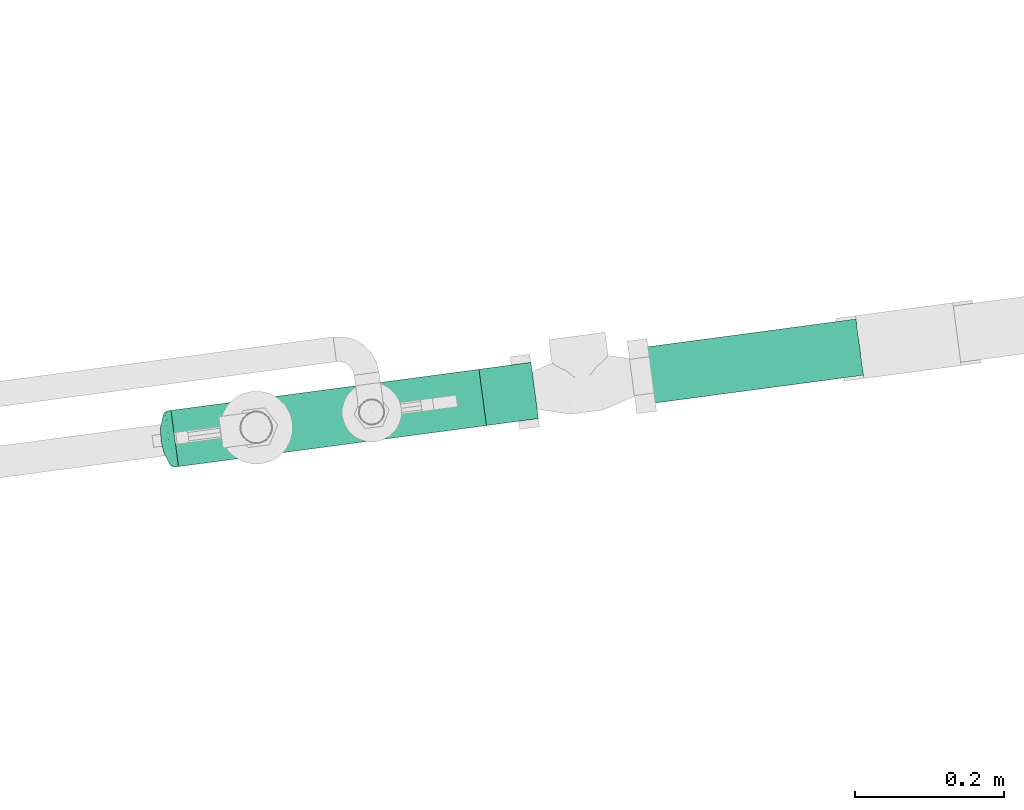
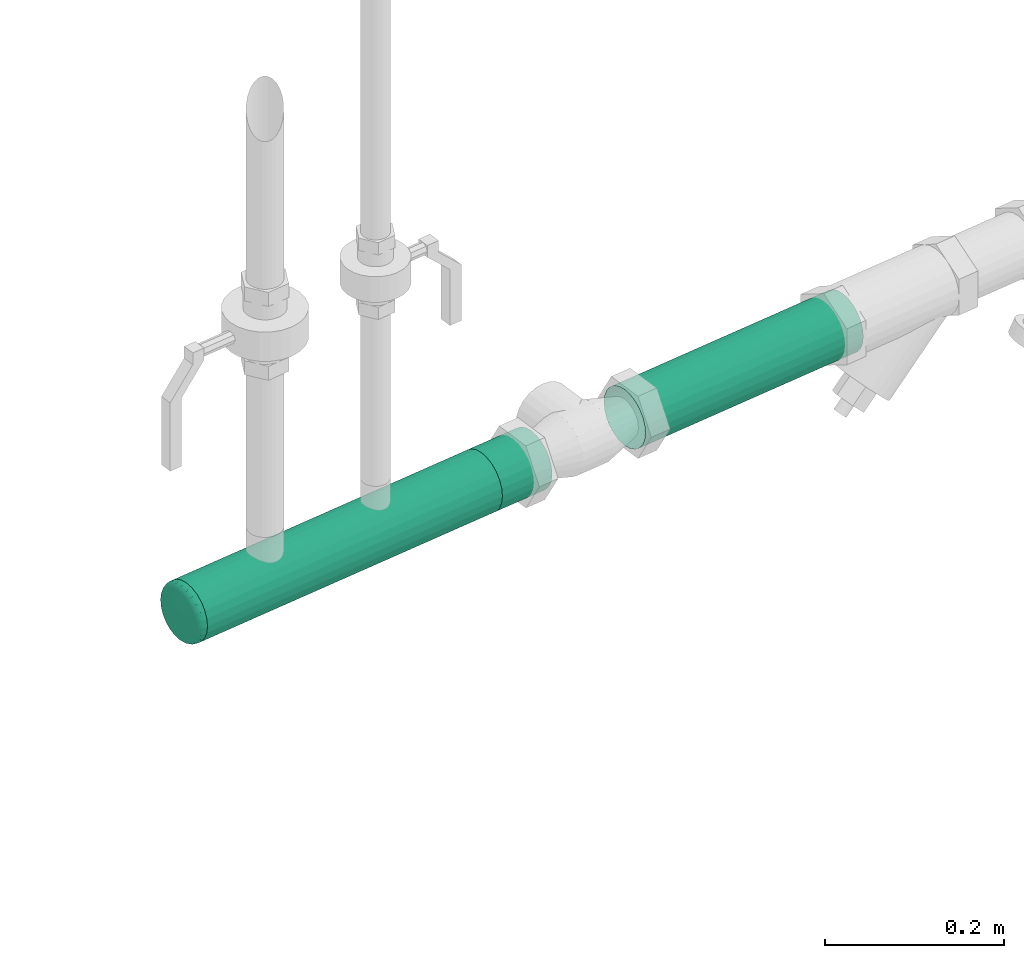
# One storey, part 327 of 374: 3 flow segments, 1 flow fitting.
"""IFC2X3 building model written with IfcOpenShell, lengths in metres."""

import ifcopenshell
import ifcopenshell.guid

model = None  # the IFC model being written
_history = None  # IfcOwnerHistory: only IFC2X3 demands one
_inside = {}  # id of a spatial element -> (the spatial element, [elements in it])
_under = {}  # id of a project, library or spatial element -> (it, [spatial elements below it])
_declared = {}  # id of a project -> (the project, [libraries it declares])
_typed = {}  # id of a type object -> (the type object, [elements of that type])
_made_of = {}  # id of a material, layer set ... -> (it, [elements and type objects made of it])


def new_model(schema):
    """Start an empty IFC model of exactly this schema.

    Asked for "IFC4X3", IfcOpenShell would pick the latest addendum, in which some entities
    have other attributes; the version numbers below select the first issue.
    IFC2X3 requires an IfcOwnerHistory on every rooted entity: one is made here for all.
    """
    global model, _history
    if schema == "IFC4X3":
        model = ifcopenshell.file(schema_version=(4, 3, 0, 0))
    else:
        model = ifcopenshell.file(schema=schema)
    _inside.clear()
    _under.clear()
    _declared.clear()
    _typed.clear()
    _made_of.clear()
    _history = None
    if model.schema == "IFC2X3":
        org = make("IfcOrganization", Name="unknown")
        user = make(
            "IfcPersonAndOrganization",
            ThePerson=make("IfcPerson", FamilyName="unknown"),
            TheOrganization=org,
        )
        app = make(
            "IfcApplication",
            ApplicationDeveloper=org,
            Version="unknown",
            ApplicationFullName="unknown",
            ApplicationIdentifier="unknown",
        )
        _history = make(
            "IfcOwnerHistory",
            OwningUser=user,
            OwningApplication=app,
            ChangeAction="ADDED",
            CreationDate=0,
        )
    return model


def make(cls, **values):
    """One entity of the class cls with the attributes given. An attribute that is None is left unset."""
    return model.create_entity(
        cls, **{name: value for name, value in values.items() if value is not None}
    )


def rooted(cls, **values):
    """An entity with a GlobalId (a new one), such as an element, a storey or a relation."""
    return make(cls, GlobalId=ifcopenshell.guid.new(), OwnerHistory=_history, **values)


def si_unit(unit_type, name, prefix=None):
    """IfcSIUnit, for example si_unit("LENGTHUNIT", "METRE", prefix="MILLI")."""
    return make("IfcSIUnit", UnitType=unit_type, Prefix=prefix, Name=name)


def assignment(units):
    """IfcUnitAssignment: the units of a project."""
    return None if units is None else make("IfcUnitAssignment", Units=units)


def point(xyz):
    """IfcCartesianPoint."""
    return None if xyz is None else make("IfcCartesianPoint", Coordinates=xyz)


def direction(xyz):
    """IfcDirection."""
    return None if xyz is None else make("IfcDirection", DirectionRatios=xyz)


def frame(location, z_axis=None, x_axis=None):
    """IfcAxis2Placement3D, a coordinate frame: its origin and axes. An axis left out is left unset."""
    return make(
        "IfcAxis2Placement3D",
        Location=point(location),
        Axis=direction(z_axis),
        RefDirection=direction(x_axis),
    )


def origin():
    """The frame at (0, 0, 0) with its axes left unset."""
    return frame((0.0, 0.0, 0.0))


def place(relative_to, where):
    """IfcLocalPlacement: puts the frame where relative to a parent placement (None: the world)."""
    return make(
        "IfcLocalPlacement", PlacementRelTo=relative_to, RelativePlacement=where
    )


def context(
    kind, dimensions, precision=None, world=None, true_north=None, identifier=None
):
    """IfcGeometricRepresentationContext, for example the 3D "Model" context."""
    return make(
        "IfcGeometricRepresentationContext",
        ContextIdentifier=identifier,
        ContextType=kind,
        CoordinateSpaceDimension=dimensions,
        Precision=precision,
        WorldCoordinateSystem=world,
        TrueNorth=true_north,
    )


def subcontext(parent, identifier, kind, view, scale=None):
    """IfcGeometricRepresentationSubContext, for example "Body" below "Model"."""
    return make(
        "IfcGeometricRepresentationSubContext",
        ContextIdentifier=identifier,
        ContextType=kind,
        ParentContext=parent,
        TargetScale=scale,
        TargetView=view,
    )


def project(units=None, contexts=None):
    """IfcProject with its units and contexts."""
    return rooted(
        "IfcProject",
        Name="project",
        RepresentationContexts=contexts,
        UnitsInContext=assignment(units),
    )


def spatial(cls, under=None, at=None, **own):
    """A site, building, storey or space (cls), placed at a placement, below another one or the project."""
    s = rooted(cls, ObjectPlacement=at, **own)
    if under is not None:
        _under.setdefault(under.id(), (under, []))[1].append(s)
    return s


def faces_of(points, faces, orient=None, outer=None):
    """IfcFace entities. A face is a list of loops; a loop is a list of indices into points, from 0.

    orient and outer hold one flag for each loop. By default every Orientation is true, the
    first loop of a face is its IfcFaceOuterBound and the others are IfcFaceBound.
    """
    made = []
    for i, loops in enumerate(faces):
        bounds = []
        for j, loop in enumerate(loops):
            is_outer = j == 0 if outer is None else outer[i][j]
            bounds.append(
                make(
                    "IfcFaceOuterBound" if is_outer else "IfcFaceBound",
                    Bound=make("IfcPolyLoop", Polygon=[points[k] for k in loop]),
                    Orientation=True if orient is None else orient[i][j],
                )
            )
        made.append(make("IfcFace", Bounds=bounds))
    return made


def open_shell(faces, orient=None, outer=None):
    """The faces of one IfcOpenShell. surface_model builds it on its shared points."""
    return ("IfcOpenShell", faces, orient, outer)


def surface_model(cls, points, shells):
    """IfcFaceBasedSurfaceModel or IfcShellBasedSurfaceModel (cls): surfaces that need not close."""
    shared = [point(p) for p in points]
    made = [make(c, CfsFaces=faces_of(shared, fs, o, b)) for c, fs, o, b in shells]
    if cls == "IfcFaceBasedSurfaceModel":
        return make(cls, FbsmFaces=made)
    return make(cls, SbsmBoundary=made)


def shape(context_of_items, identifier, shape_type, items):
    """IfcShapeRepresentation: the items that make up one representation, for example the "Body"."""
    return make(
        "IfcShapeRepresentation",
        ContextOfItems=context_of_items,
        RepresentationIdentifier=identifier,
        RepresentationType=shape_type,
        Items=items,
    )


def source(mapping_origin, context_of_items, identifier, shape_type, items):
    """IfcRepresentationMap: a shape defined once, which mapped items show again and again."""
    return make(
        "IfcRepresentationMap",
        MappingOrigin=mapping_origin,
        MappedRepresentation=shape(context_of_items, identifier, shape_type, items),
    )


def transform(
    local_origin,
    x_axis=None,
    y_axis=None,
    z_axis=None,
    scale=None,
    scale2=None,
    scale3=None,
    uniform=True,
):
    """IfcCartesianTransformationOperator3D, or its non-uniform kind. x_axis, y_axis, z_axis: its Axis1, 2, 3."""
    if uniform:
        return make(
            "IfcCartesianTransformationOperator3D",
            Axis1=direction(x_axis),
            Axis2=direction(y_axis),
            LocalOrigin=point(local_origin),
            Scale=scale,
            Axis3=direction(z_axis),
        )
    return make(
        "IfcCartesianTransformationOperator3DnonUniform",
        Axis1=direction(x_axis),
        Axis2=direction(y_axis),
        LocalOrigin=point(local_origin),
        Scale=scale,
        Axis3=direction(z_axis),
        Scale2=scale2,
        Scale3=scale3,
    )


def mapped(mapping_source, mapping_target):
    """IfcMappedItem: shows the shape of a source again, moved by a transform."""
    return make(
        "IfcMappedItem", MappingSource=mapping_source, MappingTarget=mapping_target
    )


def made_of(thing, what):
    """Note that an element or type object is made of a material, layer set ...; save() writes the relation."""
    if what is not None:
        _made_of.setdefault(what.id(), (what, []))[1].append(thing)
    return thing


def element(
    cls,
    number,
    at=None,
    inside=None,
    cuts=None,
    type_object=None,
    material=None,
    context=None,
    identifier="Body",
    shape_type=None,
    held_by="IfcProductDefinitionShape",
    body=None,
    shapes=None,
    **own,
):
    """One element of the class cls, such as IfcWall. Its Tag is "e" and its number.

    at: its placement. inside: the storey or other place that contains it. cuts: it is an
    opening in that element (IfcRelVoidsElement). A single representation is given by context,
    identifier, shape_type and body (its items); several are given by shapes. held_by: the class
    of the entity that holds the representations. save() writes the other relations.
    """
    e = rooted(cls, Tag="e%d" % number, ObjectPlacement=at, **own)
    if body is not None:
        shapes = [shape(context, identifier, shape_type, body)]
    if shapes is not None:
        e.Representation = make(held_by, Representations=shapes)
    if inside is not None:
        _inside.setdefault(inside.id(), (inside, []))[1].append(e)
    if cuts is not None:
        rooted(
            "IfcRelVoidsElement", RelatingBuildingElement=cuts, RelatedOpeningElement=e
        )
    if type_object is not None:
        _typed.setdefault(type_object.id(), (type_object, []))[1].append(e)
    return made_of(e, material)


def aggregate(whole, parts):
    """IfcRelAggregates: a whole, such as a stair, and the parts it consists of."""
    return rooted("IfcRelAggregates", RelatingObject=whole, RelatedObjects=parts)


def save(model, path):
    """Write the relations noted so far, then the file.

    IfcRelAggregates (storeys below a building ...), IfcRelContainedInSpatialStructure (elements
    in a storey), IfcRelDefinesByType, IfcRelAssociatesMaterial and IfcRelDeclares: one each for
    every whole, place, type object, material and project.
    """
    for whole, parts in _under.values():
        aggregate(whole, parts)
    for where, things in _inside.values():
        rooted(
            "IfcRelContainedInSpatialStructure",
            RelatedElements=things,
            RelatingStructure=where,
        )
    for kind, things in _typed.values():
        rooted("IfcRelDefinesByType", RelatedObjects=things, RelatingType=kind)
    for what, things in _made_of.values():
        rooted("IfcRelAssociatesMaterial", RelatedObjects=things, RelatingMaterial=what)
    for by, libraries in _declared.values():
        rooted("IfcRelDeclares", RelatingContext=by, RelatedDefinitions=libraries)
    model.write(path)


model = new_model("IFC2X3")

# Units and contexts
model_context = context("Model", 3, precision=1e-05, world=origin(), true_north=direction((-0.4480736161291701, 0.8939966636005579)))
body_context = subcontext(model_context, "Body", "Model", "MODEL_VIEW")
ifc_project = project(units=[si_unit("LENGTHUNIT", "METRE"), si_unit("AREAUNIT", "SQUARE_METRE"), si_unit("VOLUMEUNIT", "CUBIC_METRE"), si_unit("PLANEANGLEUNIT", "RADIAN"), si_unit("THERMODYNAMICTEMPERATUREUNIT", "KELVIN"), si_unit("MASSUNIT", "GRAM", prefix="KILO"), si_unit("TIMEUNIT", "SECOND")], contexts=[model_context])

# Site, building, storey
site_placement = place(None, origin())
site = spatial("IfcSite", under=ifc_project, at=site_placement, Name="Site 1", CompositionType="ELEMENT")
building_placement = place(site_placement, origin())
building = spatial("IfcBuilding", under=site, at=building_placement, Name="Undefined", CompositionType="ELEMENT")
storey_placement = place(building_placement, origin())
storey = spatial("IfcBuildingStorey", under=building, at=storey_placement, Name="Rez de chauss\x8ee", CompositionType="ELEMENT", Elevation=0.0)

# Flow segments
shared_shape_1 = source(origin(), body_context, "Body", "SurfaceModel", [
    surface_model("IfcFaceBasedSurfaceModel", [(0.0, 0.009933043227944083, 0.0), (0.0, 0.0, 0.0), (0.07026411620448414, 1.776356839e-15, 4.4408921e-16), (0.07026411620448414, 0.00993304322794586, 4.4408921e-16), (0.0, -0.009594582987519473, -0.002570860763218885), (0.07026411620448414, -0.00959458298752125, -0.002570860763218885), (0.0, -0.018196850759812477, -0.007537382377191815), (0.07026411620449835, -0.0181968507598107, -0.007537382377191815), (0.0, -0.025220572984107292, -0.014561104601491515), (0.07026411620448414, -0.02522057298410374, -0.014561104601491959), (1.4210854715e-14, -0.030187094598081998, -0.023163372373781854), (0.07026411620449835, -0.030187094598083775, -0.023163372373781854), (0.0, -0.03275795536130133, -0.032757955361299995), (0.07026411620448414, -0.03275795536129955, -0.03275795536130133), (1.4210854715e-14, -0.03275795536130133, -0.0426909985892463), (0.07026411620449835, -0.032757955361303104, -0.04269099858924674), (0.0, -0.030187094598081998, -0.052285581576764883), (0.07026411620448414, -0.03018709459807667, -0.05228558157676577), (0.0, -0.02522057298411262, -0.06088784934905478), (0.07026411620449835, -0.02522057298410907, -0.06088784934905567), (0.0, -0.0181968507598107, -0.06791157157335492), (0.07026411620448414, -0.0181968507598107, -0.06791157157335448), (0.0, -0.009594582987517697, -0.07287809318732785), (0.07026411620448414, -0.00959458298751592, -0.07287809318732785), (0.0, -3.552713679e-15, -0.07544895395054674), (0.07026411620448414, 1.776356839e-15, -0.0754489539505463), (0.0, 0.009933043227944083, -0.07544895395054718), (0.07026411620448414, 0.009933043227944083, -0.0754489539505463), (1.4210854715e-14, 0.019527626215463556, -0.07287809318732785), (0.07026411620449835, 0.01952762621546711, -0.07287809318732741), (0.0, 0.028129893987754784, -0.06791157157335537), (0.07026411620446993, 0.028129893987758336, -0.06791157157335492), (0.0, 0.03515361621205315, -0.06088784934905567), (0.07026411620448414, 0.03515361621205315, -0.06088784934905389), (0.0, 0.04012013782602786, -0.05228558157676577), (0.07026411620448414, 0.040120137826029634, -0.052285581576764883), (0.0, 0.04269099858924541, -0.04269099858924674), (0.07026411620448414, 0.04269099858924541, -0.04269099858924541), (0.0, 0.04269099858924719, -0.03275795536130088), (0.07026411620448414, 0.04269099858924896, -0.032757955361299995), (0.0, 0.04012013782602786, -0.0231633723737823), (0.07026411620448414, 0.04012013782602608, -0.023163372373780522), (0.0, 0.03515361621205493, -0.014561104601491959), (0.07026411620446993, 0.035153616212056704, -0.01456110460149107), (1.4210854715e-14, 0.028129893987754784, -0.007537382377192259), (0.07026411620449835, 0.02812989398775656, -0.007537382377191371), (7.105427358e-15, 0.019527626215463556, -0.0025708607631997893), (0.07026411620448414, 0.01952762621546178, -0.002570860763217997)], [open_shell([[[0, 1, 2, 3]], [[1, 4, 5, 2]], [[4, 6, 7, 5]], [[6, 8, 9, 7]], [[8, 10, 11, 9]], [[10, 12, 13, 11]], [[12, 14, 15, 13]], [[14, 16, 17, 15]], [[16, 18, 19, 17]], [[18, 20, 21, 19]], [[20, 22, 23, 21]], [[22, 24, 25, 23]], [[24, 26, 27, 25]], [[26, 28, 29, 27]], [[28, 30, 31, 29]], [[30, 32, 33, 31]], [[32, 34, 35, 33]], [[34, 36, 37, 35]], [[36, 38, 39, 37]], [[38, 40, 41, 39]], [[40, 42, 43, 41]], [[42, 44, 45, 43]], [[44, 46, 47, 45]], [[46, 0, 3, 47]]])]),
])
flow_segment_1_placement = place(storey_placement, origin())
element("IfcFlowSegment", 1, at=flow_segment_1_placement, inside=storey, Name="Tube acier d'après DIN 2448", ObjectType="Tube acier d'après DIN 2448", context=body_context, shape_type="MappedRepresentation", body=[
    mapped(shared_shape_1, transform((66.31210468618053, 20.397360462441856, 0.7371863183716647), x_axis=(-0.9912155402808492, -0.13225639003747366, 0.0), y_axis=(0.13112491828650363, -0.9827355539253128, 0.13052619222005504), z_axis=(-0.017262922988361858, 0.12937959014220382, 0.99144486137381))),
])
shared_shape_2 = source(origin(), body_context, "Body", "SurfaceModel", [
    surface_model("IfcFaceBasedSurfaceModel", [(0.0, 0.009933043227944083, 0.0), (0.0, 0.0, 0.0), (0.30794837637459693, 0.0, -1.776356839e-15), (0.30794837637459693, 0.009933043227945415, -5.329070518e-15), (0.0, -0.009594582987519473, -0.002570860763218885), (0.30794837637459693, -0.009594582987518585, -0.0025708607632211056), (0.0, -0.018196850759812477, -0.007537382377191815), (0.30794837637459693, -0.018196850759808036, -0.007537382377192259), (0.0, -0.025220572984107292, -0.014561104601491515), (0.3079483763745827, -0.025220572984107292, -0.014561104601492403), (1.4210854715e-14, -0.030187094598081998, -0.023163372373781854), (0.30794837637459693, -0.030187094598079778, -0.02316337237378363), (0.0, -0.03275795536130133, -0.032757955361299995), (0.30794837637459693, -0.03275795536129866, -0.03275795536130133), (1.4210854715e-14, -0.03275795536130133, -0.0426909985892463), (0.30794837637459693, -0.03275795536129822, -0.04269099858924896), (0.0, -0.030187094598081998, -0.052285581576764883), (0.30794837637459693, -0.030187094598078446, -0.052285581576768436), (0.0, -0.02522057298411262, -0.06088784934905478), (0.30794837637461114, -0.025220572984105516, -0.060887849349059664), (0.0, -0.0181968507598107, -0.06791157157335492), (0.3079483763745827, -0.018196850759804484, -0.06791157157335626), (0.0, -0.009594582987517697, -0.07287809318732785), (0.3079483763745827, -0.009594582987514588, -0.07287809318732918), (0.0, -3.552713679e-15, -0.07544895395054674), (0.30794837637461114, 3.996802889e-15, -0.07544895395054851), (0.0, 0.009933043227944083, -0.07544895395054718), (0.3079483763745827, 0.0099330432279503, -0.07544895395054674), (1.4210854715e-14, 0.019527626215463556, -0.07287809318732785), (0.3079483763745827, 0.019527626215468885, -0.07287809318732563), (0.0, 0.028129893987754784, -0.06791157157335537), (0.30794837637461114, 0.028129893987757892, -0.06791157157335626), (0.0, 0.03515361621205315, -0.06088784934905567), (0.30794837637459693, 0.03515361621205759, -0.060887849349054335), (0.0, 0.04012013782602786, -0.05228558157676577), (0.30794837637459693, 0.04012013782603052, -0.05228558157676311), (0.0, 0.04269099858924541, -0.04269099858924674), (0.30794837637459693, 0.04269099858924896, -0.042690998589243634), (0.0, 0.04269099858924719, -0.03275795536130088), (0.30794837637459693, 0.04269099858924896, -0.032757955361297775), (0.0, 0.04012013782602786, -0.0231633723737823), (0.3079483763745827, 0.04012013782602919, -0.0231633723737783), (0.0, 0.03515361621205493, -0.014561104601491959), (0.30794837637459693, 0.03515361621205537, -0.01456110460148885), (1.4210854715e-14, 0.028129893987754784, -0.007537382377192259), (0.30794837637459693, 0.028129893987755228, -0.007537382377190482), (7.105427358e-15, 0.019527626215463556, -0.0025708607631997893), (0.30794837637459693, 0.01952762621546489, -0.002570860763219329)], [open_shell([[[0, 1, 2, 3]], [[1, 4, 5, 2]], [[4, 6, 7, 5]], [[6, 8, 9, 7]], [[8, 10, 11, 9]], [[10, 12, 13, 11]], [[12, 14, 15, 13]], [[14, 16, 17, 15]], [[16, 18, 19, 17]], [[18, 20, 21, 19]], [[20, 22, 23, 21]], [[22, 24, 25, 23]], [[24, 26, 27, 25]], [[26, 28, 29, 27]], [[28, 30, 31, 29]], [[30, 32, 33, 31]], [[32, 34, 35, 33]], [[34, 36, 37, 35]], [[36, 38, 39, 37]], [[38, 40, 41, 39]], [[40, 42, 43, 41]], [[42, 44, 45, 43]], [[44, 46, 47, 45]], [[46, 0, 3, 47]]])]),
])
flow_segment_2_placement = place(storey_placement, origin())
element("IfcFlowSegment", 2, at=flow_segment_2_placement, inside=storey, Name="Tube acier d'après DIN 2448", ObjectType="Tube acier d'après DIN 2448", context=body_context, shape_type="MappedRepresentation", body=[
    mapped(shared_shape_2, transform((66.75395521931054, 20.40930137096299, 0.7102809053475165), x_axis=(-0.9912155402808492, -0.13225639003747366, 0.0), y_axis=(0.017262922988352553, -0.1293795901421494, -0.9914448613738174), z_axis=(0.13112491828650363, -0.9827355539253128, 0.13052619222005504))),
])

# Flow fitting
shared_shape_3 = source(origin(), body_context, "Body", "SurfaceModel", [
    surface_model("IfcFaceBasedSurfaceModel", [(0.0, 0.0, 0.0), (0.01709373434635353, 1.11022302e-16, -2.842170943e-14), (0.01651843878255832, 0.004397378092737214, -1.4210854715e-14), (0.014831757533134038, 0.008496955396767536, -0.00012834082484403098), (0.012148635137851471, 0.012019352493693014, -0.0003762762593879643), (0.008651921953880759, 0.014724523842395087, -0.0007269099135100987), (0.004579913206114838, 0.016428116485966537, -0.0011563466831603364), (0.00021010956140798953, 0.01701403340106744, -0.0016353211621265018), (-0.004159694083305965, 0.016442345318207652, -0.0021311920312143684), (-0.008231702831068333, 0.014752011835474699, -0.002610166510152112), (-0.011728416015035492, 0.012058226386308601, -0.003039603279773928), (-0.014411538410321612, 0.008544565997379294, -0.0033902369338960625), (-0.016098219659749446, 0.004450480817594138, -0.0036381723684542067), (-0.016673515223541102, 5.49759861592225e-05, -0.003766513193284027), (-0.016098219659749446, -0.00434240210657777, -0.003766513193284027), (-0.014411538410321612, -0.008441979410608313, -0.003638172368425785), (-0.011728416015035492, -0.011964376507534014, -0.0033902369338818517), (-0.008231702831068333, -0.014669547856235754, -0.0030396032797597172), (-0.004159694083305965, -0.016373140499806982, -0.002610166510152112), (0.00021010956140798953, -0.016959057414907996, -0.0021311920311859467), (0.004579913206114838, -0.016387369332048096, -0.00163532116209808), (0.008651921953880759, -0.014697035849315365, -0.0011563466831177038), (0.012148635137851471, -0.012003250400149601, -0.0007269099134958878), (0.014831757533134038, -0.008489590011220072, -0.0003762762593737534), (0.01651843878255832, -0.004395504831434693, -0.00012834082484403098), (0.03376724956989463, 5.497598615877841e-05, -0.003766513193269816), (0.032644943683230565, 0.008633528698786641, -0.003766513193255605), (0.029354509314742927, 0.016631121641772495, -0.004016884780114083), (0.024120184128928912, 0.023502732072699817, -0.004500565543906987), (0.01729867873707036, 0.028780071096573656, -0.00518459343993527), (0.009354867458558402, 0.032103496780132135, -0.006022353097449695), (0.000830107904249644, 0.03324652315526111, -0.006956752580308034), (-0.007694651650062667, 0.03213125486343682, -0.007924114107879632), (-0.015638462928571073, 0.028833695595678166, -0.00885851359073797), (-0.022459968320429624, 0.023578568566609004, -0.009696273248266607), (-0.027694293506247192, 0.016724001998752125, -0.010380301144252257), (-0.030984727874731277, 0.008737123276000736, -0.010863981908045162), (-0.03210703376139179, 0.00016222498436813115, -0.011114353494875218), (-0.030984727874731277, -0.008416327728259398, -0.011114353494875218), (-0.027694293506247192, -0.016413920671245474, -0.01086398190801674), (-0.022459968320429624, -0.023285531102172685, -0.010380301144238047), (-0.015638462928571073, -0.028562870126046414, -0.009696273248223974), (-0.007694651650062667, -0.03188629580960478, -0.008858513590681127), (0.000830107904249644, -0.0330293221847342, -0.007924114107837), (0.009354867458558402, -0.031914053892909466, -0.006956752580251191), (0.01729867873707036, -0.028616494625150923, -0.0060223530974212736), (0.024120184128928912, -0.023361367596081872, -0.005184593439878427), (0.029354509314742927, -0.016506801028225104, -0.004500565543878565), (0.032644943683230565, -0.008519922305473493, -0.004016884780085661), (0.03591731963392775, 7.107724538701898e-05, -0.00486964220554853), (0.03472679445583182, 0.00917107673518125, -0.00486964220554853), (0.031236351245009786, 0.01765480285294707, -0.00513523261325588), (0.025683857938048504, 0.024944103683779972, -0.005648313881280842), (0.018447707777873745, 0.030542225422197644, -0.006373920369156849), (0.010021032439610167, 0.03406766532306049, -0.007262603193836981), (0.0009780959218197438, 0.03528017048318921, -0.008253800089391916), (-0.008064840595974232, 0.03409711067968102, -0.009279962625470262), (-0.016491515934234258, 0.030599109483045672, -0.010271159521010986), (-0.023727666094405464, 0.02502454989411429, -0.011159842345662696), (-0.029280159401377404, 0.017753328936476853, -0.011885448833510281), (-0.03277060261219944, 0.009280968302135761, -0.012398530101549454), (-0.03396112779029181, 0.00018484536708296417, -0.012664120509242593), (-0.03277060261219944, -0.008915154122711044, -0.012664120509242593), (-0.029280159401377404, -0.0173988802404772, -0.012398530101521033), (-0.023727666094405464, -0.02468818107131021, -0.01188544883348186), (-0.016491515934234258, -0.030286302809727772, -0.011159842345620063), (-0.008064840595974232, -0.0338117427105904, -0.010271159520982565), (0.0009780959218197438, -0.035024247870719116, -0.009279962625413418), (0.010021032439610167, -0.033841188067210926, -0.008253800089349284), (0.018447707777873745, -0.0303431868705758, -0.007262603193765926), (0.025683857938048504, -0.02476862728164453, -0.006373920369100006), (0.031236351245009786, -0.01749740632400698, -0.005648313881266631), (0.03472679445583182, -0.009025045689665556, -0.005135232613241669), (0.037676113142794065, 9.526440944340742e-05, -0.006526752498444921), (0.036432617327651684, 0.009600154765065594, -0.006526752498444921), (0.032786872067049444, 0.018461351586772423, -0.006804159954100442), (0.026987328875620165, 0.026074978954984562, -0.007340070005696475), (0.019429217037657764, 0.0319221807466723, -0.008097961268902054), (0.010627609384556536, 0.03560447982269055, -0.009026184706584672), (0.0011823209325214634, 0.03687093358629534, -0.01006148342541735), (-0.008262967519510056, 0.03563523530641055, -0.011133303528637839), (-0.01706457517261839, 0.031981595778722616, -0.012168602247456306), (-0.02462268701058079, 0.026159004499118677, -0.013096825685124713), (-0.030422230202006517, 0.018564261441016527, -0.013854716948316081), (-0.03406797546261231, 0.00971493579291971, -0.014390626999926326), (-0.03531147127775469, 0.00021409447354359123, -0.014668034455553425), (-0.03406797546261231, -0.009290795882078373, -0.014668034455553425), (-0.030422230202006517, -0.01815199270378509, -0.014390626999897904), (-0.02462268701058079, -0.02576562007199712, -0.013854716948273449), (-0.01706457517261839, -0.0316128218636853, -0.01309682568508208), (-0.008262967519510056, -0.03529512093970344, -0.012168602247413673), (0.0011823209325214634, -0.03656157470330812, -0.011133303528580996), (0.010627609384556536, -0.03532587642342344, -0.010061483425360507), (0.019429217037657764, -0.03167223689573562, -0.009026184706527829), (0.026987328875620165, -0.025849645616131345, -0.00809796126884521), (0.032786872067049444, -0.018254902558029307, -0.007340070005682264), (0.036432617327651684, -0.00940557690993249, -0.00680415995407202), (0.038905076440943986, 0.00012563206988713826, -0.008607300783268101), (0.03762803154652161, 0.009886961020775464, -0.008607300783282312), (0.03388392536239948, 0.01898722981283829, -0.008892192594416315), (0.027927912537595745, 0.026806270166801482, -0.00944256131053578), (0.02016588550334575, 0.03281122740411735, -0.010220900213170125), (0.011126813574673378, 0.036592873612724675, -0.011174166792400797), (0.0014266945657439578, 0.037893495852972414, -0.012237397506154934), (-0.008273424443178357, 0.03662445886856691, -0.013338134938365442), (-0.017312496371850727, 0.032872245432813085, -0.01440136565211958), (-0.02507452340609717, 0.026892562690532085, -0.01535463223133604), (-0.03103053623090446, 0.019092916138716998, -0.016132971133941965), (-0.03477464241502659, 0.010004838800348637, -0.01668333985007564), (-0.036051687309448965, 0.0002476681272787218, -0.01696823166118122), (-0.03477464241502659, -0.009513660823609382, -0.01696823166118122), (-0.03103053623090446, -0.01861392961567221, -0.016683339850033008), (-0.02507452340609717, -0.0264329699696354, -0.016132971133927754), (-0.017312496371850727, -0.03243792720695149, -0.015354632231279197), (-0.008273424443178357, -0.03621957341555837, -0.014401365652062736), (0.0014266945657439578, -0.03752019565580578, -0.01333813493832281), (0.011126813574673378, -0.03625115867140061, -0.012237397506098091), (0.02016588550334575, -0.032498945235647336, -0.011174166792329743), (0.027927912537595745, -0.026519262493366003, -0.010220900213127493), (0.03388392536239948, -0.018719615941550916, -0.009442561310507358), (0.03762803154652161, -0.009631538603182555, -0.008892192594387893), (0.039507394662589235, 0.00015978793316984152, -0.010947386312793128), (0.03821886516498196, 0.010008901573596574, -0.010947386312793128), (0.03444108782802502, 0.019191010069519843, -0.01123484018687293), (0.0284315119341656, 0.027080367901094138, -0.011790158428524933), (0.020599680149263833, 0.033139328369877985, -0.012575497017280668), (0.0114793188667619, 0.03695498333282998, -0.0135373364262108), (0.0016919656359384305, 0.03826730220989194, -0.014610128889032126), (-0.008095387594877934, 0.03698685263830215, -0.01572076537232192), (-0.01721574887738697, 0.03320089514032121, -0.01679355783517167), (-0.025047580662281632, 0.027167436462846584, -0.01775539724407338), (-0.031057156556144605, 0.01929764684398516, -0.018540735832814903), (-0.0348349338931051, 0.010127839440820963, -0.019096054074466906), (-0.03612346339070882, 0.00028292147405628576, -0.019383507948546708), (-0.0348349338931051, -0.009566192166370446, -0.019383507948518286), (-0.031057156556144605, -0.018748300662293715, -0.019096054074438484), (-0.025047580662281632, -0.0266376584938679, -0.018540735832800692), (-0.01721574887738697, -0.03269661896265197, -0.017755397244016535), (-0.008095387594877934, -0.036512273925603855, -0.016793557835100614), (0.0016919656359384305, -0.03782459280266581, -0.015720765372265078), (0.0114793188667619, -0.03654414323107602, -0.014610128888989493), (0.020599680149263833, -0.03275818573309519, -0.013537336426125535), (0.0284315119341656, -0.026724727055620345, -0.012575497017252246), (0.03444108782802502, -0.018854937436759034, -0.011790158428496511), (0.03821886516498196, -0.009685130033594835, -0.011234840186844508), (0.039895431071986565, 0.00021055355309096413, -0.014425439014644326), (0.038606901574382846, 0.010059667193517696, -0.014425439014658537), (0.0348291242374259, 0.019241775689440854, -0.014712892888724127), (0.02881954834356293, 0.02713113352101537, -0.01526821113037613), (0.020987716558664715, 0.03319009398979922, -0.016053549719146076), (0.011867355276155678, 0.03700574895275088, -0.017015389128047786), (0.002080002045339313, 0.03831806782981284, -0.018088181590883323), (-0.007707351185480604, 0.03703761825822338, -0.01919881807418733), (-0.01682771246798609, 0.03325166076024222, -0.020271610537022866), (-0.024659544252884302, 0.027218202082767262, -0.021233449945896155), (-0.030669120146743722, 0.019348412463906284, -0.02201878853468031), (-0.03444689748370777, 0.010178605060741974, -0.022574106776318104), (-0.03573542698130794, 0.0003336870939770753, -0.022861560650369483), (-0.03444689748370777, -0.009515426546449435, -0.022861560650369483), (-0.030669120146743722, -0.018697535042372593, -0.022574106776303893), (-0.024659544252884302, -0.02658689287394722, -0.022018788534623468), (-0.01682771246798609, -0.03264585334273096, -0.021233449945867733), (-0.007707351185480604, -0.03646150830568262, -0.020271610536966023), (0.002080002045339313, -0.03777382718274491, -0.019198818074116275), (0.011867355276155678, -0.03649337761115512, -0.01808818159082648), (0.020987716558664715, -0.03270742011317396, -0.017015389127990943), (0.02881954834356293, -0.02667396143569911, -0.016053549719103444), (0.0348291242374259, -0.018804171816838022, -0.015268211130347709), (0.038606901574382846, -0.009634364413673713, -0.014712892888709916)], [open_shell([[[0, 1, 2]], [[0, 2, 3]], [[0, 3, 4]], [[0, 4, 5]], [[0, 5, 6]], [[0, 6, 7]], [[0, 7, 8]], [[0, 8, 9]], [[0, 9, 10]], [[0, 10, 11]], [[0, 11, 12]], [[0, 12, 13]], [[0, 13, 14]], [[0, 14, 15]], [[0, 15, 16]], [[0, 16, 17]], [[0, 17, 18]], [[0, 18, 19]], [[0, 19, 20]], [[0, 20, 21]], [[0, 21, 22]], [[0, 22, 23]], [[0, 23, 24]], [[0, 24, 1]], [[1, 25, 26, 2]], [[2, 26, 27, 3]], [[3, 27, 28, 4]], [[4, 28, 29, 5]], [[5, 29, 30, 6]], [[6, 30, 31, 7]], [[7, 31, 32, 8]], [[8, 32, 33, 9]], [[9, 33, 34, 10]], [[10, 34, 35, 11]], [[11, 35, 36, 12]], [[12, 36, 37, 13]], [[13, 37, 38, 14]], [[14, 38, 39, 15]], [[15, 39, 40, 16]], [[16, 40, 41, 17]], [[17, 41, 42, 18]], [[18, 42, 43, 19]], [[19, 43, 44, 20]], [[20, 44, 45, 21]], [[21, 45, 46, 22]], [[22, 46, 47, 23]], [[23, 47, 48, 24]], [[24, 48, 25, 1]], [[25, 49, 50, 26]], [[26, 50, 51, 27]], [[27, 51, 52, 28]], [[28, 52, 53, 29]], [[29, 53, 54, 30]], [[30, 54, 55, 31]], [[31, 55, 56, 32]], [[32, 56, 57, 33]], [[33, 57, 58, 34]], [[34, 58, 59, 35]], [[35, 59, 60, 36]], [[36, 60, 61, 37]], [[37, 61, 62, 38]], [[38, 62, 63, 39]], [[39, 63, 64, 40]], [[40, 64, 65, 41]], [[41, 65, 66, 42]], [[42, 66, 67, 43]], [[43, 67, 68, 44]], [[44, 68, 69, 45]], [[45, 69, 70, 46]], [[46, 70, 71, 47]], [[47, 71, 72, 48]], [[48, 72, 49, 25]], [[49, 73, 74, 50]], [[50, 74, 75, 51]], [[51, 75, 76, 52]], [[52, 76, 77, 53]], [[53, 77, 78, 54]], [[54, 78, 79, 55]], [[55, 79, 80, 56]], [[56, 80, 81, 57]], [[57, 81, 82, 58]], [[58, 82, 83, 59]], [[59, 83, 84, 60]], [[60, 84, 85, 61]], [[61, 85, 86, 62]], [[62, 86, 87, 63]], [[63, 87, 88, 64]], [[64, 88, 89, 65]], [[65, 89, 90, 66]], [[66, 90, 91, 67]], [[67, 91, 92, 68]], [[68, 92, 93, 69]], [[69, 93, 94, 70]], [[70, 94, 95, 71]], [[71, 95, 96, 72]], [[72, 96, 73, 49]], [[73, 97, 98, 74]], [[74, 98, 99, 75]], [[75, 99, 100, 76]], [[76, 100, 101, 77]], [[77, 101, 102, 78]], [[78, 102, 103, 79]], [[79, 103, 104, 80]], [[80, 104, 105, 81]], [[81, 105, 106, 82]], [[82, 106, 107, 83]], [[83, 107, 108, 84]], [[84, 108, 109, 85]], [[85, 109, 110, 86]], [[86, 110, 111, 87]], [[87, 111, 112, 88]], [[88, 112, 113, 89]], [[89, 113, 114, 90]], [[90, 114, 115, 91]], [[91, 115, 116, 92]], [[92, 116, 117, 93]], [[93, 117, 118, 94]], [[94, 118, 119, 95]], [[95, 119, 120, 96]], [[96, 120, 97, 73]], [[97, 121, 122, 98]], [[98, 122, 123, 99]], [[99, 123, 124, 100]], [[100, 124, 125, 101]], [[101, 125, 126, 102]], [[102, 126, 127, 103]], [[103, 127, 128, 104]], [[104, 128, 129, 105]], [[105, 129, 130, 106]], [[106, 130, 131, 107]], [[107, 131, 132, 108]], [[108, 132, 133, 109]], [[109, 133, 134, 110]], [[110, 134, 135, 111]], [[111, 135, 136, 112]], [[112, 136, 137, 113]], [[113, 137, 138, 114]], [[114, 138, 139, 115]], [[115, 139, 140, 116]], [[116, 140, 141, 117]], [[117, 141, 142, 118]], [[118, 142, 143, 119]], [[119, 143, 144, 120]], [[120, 144, 121, 97]], [[121, 145, 146, 122]], [[122, 146, 147, 123]], [[123, 147, 148, 124]], [[124, 148, 149, 125]], [[125, 149, 150, 126]], [[126, 150, 151, 127]], [[127, 151, 152, 128]], [[128, 152, 153, 129]], [[129, 153, 154, 130]], [[130, 154, 155, 131]], [[131, 155, 156, 132]], [[132, 156, 157, 133]], [[133, 157, 158, 134]], [[134, 158, 159, 135]], [[135, 159, 160, 136]], [[136, 160, 161, 137]], [[137, 161, 162, 138]], [[138, 162, 163, 139]], [[139, 163, 164, 140]], [[140, 164, 165, 141]], [[141, 165, 166, 142]], [[142, 166, 167, 143]], [[143, 167, 168, 144]], [[144, 168, 145, 121]]])]),
])
flow_fitting_placement = place(storey_placement, origin())
element("IfcFlowFitting", 3, at=flow_fitting_placement, inside=storey, Name="Fond/couvercle", ObjectType="Fond/couvercle", context=body_context, shape_type="MappedRepresentation", body=[
    mapped(shared_shape_3, transform((65.8123060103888, 20.32073773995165, 0.7004328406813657), x_axis=(-0.021547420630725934, 0.9997678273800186, 0.0), y_axis=(0.01459104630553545, 0.00031447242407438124, -0.9998934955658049), z_axis=(-0.999661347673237, -0.021545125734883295, -0.014594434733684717))),
])

# Flow segment
shared_shape_4 = source(origin(), body_context, "Body", "SurfaceModel", [
    surface_model("IfcFaceBasedSurfaceModel", [(0.0, 0.009933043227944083, 0.0), (0.0, 0.0, 0.0), (0.41651679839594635, 1.776356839e-15, 0.0), (0.41651679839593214, 0.00993304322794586, 0.0), (0.0, -0.009594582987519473, -0.002570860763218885), (0.41651679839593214, -0.00959458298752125, -0.002570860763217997), (0.0, -0.018196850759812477, -0.007537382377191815), (0.41651679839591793, -0.018196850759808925, -0.0075373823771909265), (0.0, -0.025220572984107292, -0.014561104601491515), (0.41651679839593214, -0.02522057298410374, -0.01456110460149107), (1.4210854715e-14, -0.030187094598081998, -0.023163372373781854), (0.41651679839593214, -0.030187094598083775, -0.023163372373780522), (0.0, -0.03275795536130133, -0.032757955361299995), (0.41651679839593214, -0.032757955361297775, -0.03275795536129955), (1.4210854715e-14, -0.03275795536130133, -0.0426909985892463), (0.41651679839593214, -0.032757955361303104, -0.042690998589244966), (0.0, -0.030187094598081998, -0.052285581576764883), (0.41651679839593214, -0.03018709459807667, -0.05228558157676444), (0.0, -0.02522057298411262, -0.06088784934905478), (0.41651679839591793, -0.02522057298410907, -0.06088784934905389), (0.0, -0.0181968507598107, -0.06791157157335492), (0.41651679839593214, -0.018196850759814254, -0.06791157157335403), (0.0, -0.009594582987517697, -0.07287809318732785), (0.41651679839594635, -0.009594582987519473, -0.07287809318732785), (0.0, -3.552713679e-15, -0.07544895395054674), (0.41651679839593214, -1.776356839e-15, -0.07544895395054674), (0.0, 0.009933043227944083, -0.07544895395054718), (0.41651679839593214, 0.009933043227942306, -0.07544895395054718), (1.4210854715e-14, 0.019527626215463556, -0.07287809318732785), (0.41651679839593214, 0.019527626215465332, -0.0728780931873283), (0.0, 0.028129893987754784, -0.06791157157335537), (0.41651679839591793, 0.028129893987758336, -0.06791157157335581), (0.0, 0.03515361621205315, -0.06088784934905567), (0.41651679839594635, 0.035153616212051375, -0.06088784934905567), (0.0, 0.04012013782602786, -0.05228558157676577), (0.41651679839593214, 0.04012013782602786, -0.052285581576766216), (0.0, 0.04269099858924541, -0.04269099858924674), (0.41651679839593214, 0.04269099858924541, -0.04269099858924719), (0.0, 0.04269099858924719, -0.03275795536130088), (0.41651679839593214, 0.04269099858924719, -0.03275795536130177), (0.0, 0.04012013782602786, -0.0231633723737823), (0.41651679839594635, 0.040120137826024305, -0.0231633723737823), (0.0, 0.03515361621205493, -0.014561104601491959), (0.41651679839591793, 0.03515361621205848, -0.014561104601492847), (1.4210854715e-14, 0.028129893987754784, -0.007537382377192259), (0.41651679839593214, 0.028129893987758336, -0.007537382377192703), (7.105427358e-15, 0.019527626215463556, -0.0025708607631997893), (0.41651679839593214, 0.019527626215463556, -0.002570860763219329)], [open_shell([[[0, 1, 2, 3]], [[1, 4, 5, 2]], [[4, 6, 7, 5]], [[6, 8, 9, 7]], [[8, 10, 11, 9]], [[10, 12, 13, 11]], [[12, 14, 15, 13]], [[14, 16, 17, 15]], [[16, 18, 19, 17]], [[18, 20, 21, 19]], [[20, 22, 23, 21]], [[22, 24, 25, 23]], [[24, 26, 27, 25]], [[26, 28, 29, 27]], [[28, 30, 31, 29]], [[30, 32, 33, 31]], [[32, 34, 35, 33]], [[34, 36, 37, 35]], [[36, 38, 39, 37]], [[38, 40, 41, 39]], [[40, 42, 43, 41]], [[42, 44, 45, 43]], [[44, 46, 47, 45]], [[46, 0, 3, 47]]])]),
])
flow_segment_3_placement = place(storey_placement, origin())
element("IfcFlowSegment", 4, at=flow_segment_3_placement, inside=storey, Name="Tube acier d'après DIN 2448", ObjectType="Tube acier d'après DIN 2448", context=body_context, shape_type="MappedRepresentation", body=[
    mapped(shared_shape_4, transform((66.24245780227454, 20.388067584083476, 0.7371863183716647), x_axis=(-0.9912155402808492, -0.13225639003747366, 0.0), y_axis=(0.13112491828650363, -0.9827355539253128, 0.13052619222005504), z_axis=(-0.017262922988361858, 0.12937959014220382, 0.99144486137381))),
])

save(model, "model.ifc")
